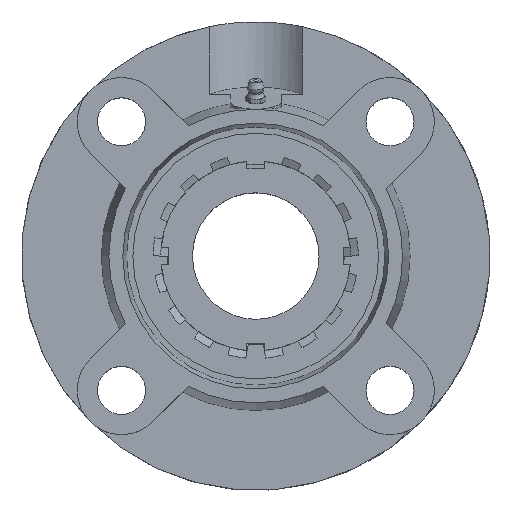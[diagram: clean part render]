
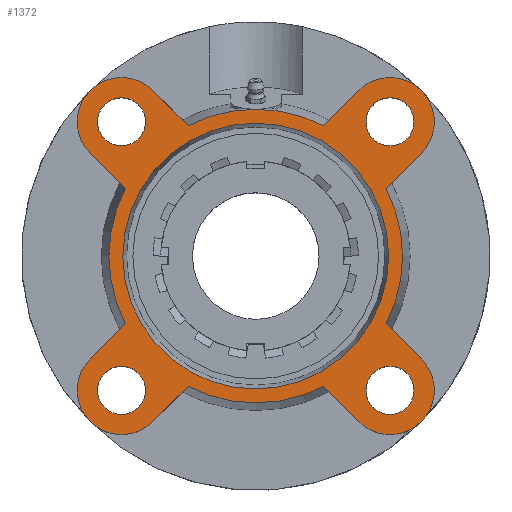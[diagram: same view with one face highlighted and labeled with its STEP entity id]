
A CAD part, top view. The second image highlights one B-rep face of the part: STEP entity #1372.
In plain terms, the highlighted planar face has unit normal (0, 0, 1).
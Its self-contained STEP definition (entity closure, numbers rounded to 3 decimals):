
#181=CARTESIAN_POINT('',(-43.533,-53.033,16.));
#182=VERTEX_POINT('',#181);
#183=CARTESIAN_POINT('',(-53.033,-53.033,16.));
#184=DIRECTION('',(0.0,0.0,-1.0));
#185=DIRECTION('',(1.0,0.0,0.0));
#186=AXIS2_PLACEMENT_3D('',#183,#184,#185);
#187=CIRCLE('',#186,9.5);
#188=EDGE_CURVE('',#182,#182,#187,.T.);
#209=CARTESIAN_POINT('',(-43.533,53.033,16.));
#210=VERTEX_POINT('',#209);
#211=CARTESIAN_POINT('',(-53.033,53.033,16.));
#212=DIRECTION('',(0.0,0.0,-1.0));
#213=DIRECTION('',(1.0,0.0,0.0));
#214=AXIS2_PLACEMENT_3D('',#211,#212,#213);
#215=CIRCLE('',#214,9.5);
#216=EDGE_CURVE('',#210,#210,#215,.T.);
#237=CARTESIAN_POINT('',(62.533,53.033,16.));
#238=VERTEX_POINT('',#237);
#239=CARTESIAN_POINT('',(53.033,53.033,16.));
#240=DIRECTION('',(0.0,0.0,-1.0));
#241=DIRECTION('',(1.0,0.0,0.0));
#242=AXIS2_PLACEMENT_3D('',#239,#240,#241);
#243=CIRCLE('',#242,9.5);
#244=EDGE_CURVE('',#238,#238,#243,.T.);
#265=CARTESIAN_POINT('',(62.533,-53.033,16.));
#266=VERTEX_POINT('',#265);
#267=CARTESIAN_POINT('',(53.033,-53.033,16.));
#268=DIRECTION('',(0.0,0.0,-1.0));
#269=DIRECTION('',(1.0,0.0,0.0));
#270=AXIS2_PLACEMENT_3D('',#267,#268,#269);
#271=CIRCLE('',#270,9.5);
#272=EDGE_CURVE('',#266,#266,#271,.T.);
#373=CARTESIAN_POINT('',(0.0,52.5,16.));
#374=VERTEX_POINT('',#373);
#375=CARTESIAN_POINT('',(0.0,0.,16.));
#376=DIRECTION('',(0.0,0.0,-1.0));
#377=DIRECTION('',(0.0,1.0,0.0));
#378=AXIS2_PLACEMENT_3D('',#375,#376,#377);
#379=CIRCLE('',#378,52.5);
#380=EDGE_CURVE('',#374,#374,#379,.T.);
#670=CARTESIAN_POINT('',(0.,58.,16.));
#671=VERTEX_POINT('',#670);
#828=CARTESIAN_POINT('',(-26.726,51.475,16.));
#829=VERTEX_POINT('',#828);
#843=CARTESIAN_POINT('',(0.0,0.,16.));
#844=DIRECTION('',(0.0,0.0,1.0));
#845=DIRECTION('',(0.0,-1.0,0.0));
#846=AXIS2_PLACEMENT_3D('',#843,#844,#845);
#847=CIRCLE('',#846,58.);
#848=EDGE_CURVE('',#671,#829,#847,.T.);
#858=CARTESIAN_POINT('',(-26.726,-51.475,16.));
#859=VERTEX_POINT('',#858);
#875=CARTESIAN_POINT('',(-40.659,-65.407,16.));
#876=VERTEX_POINT('',#875);
#877=CARTESIAN_POINT('',(-26.726,-51.475,16.));
#878=DIRECTION('',(-0.707,-0.707,0.));
#879=VECTOR('',#878,19.703);
#880=LINE('',#877,#879);
#881=EDGE_CURVE('',#859,#876,#880,.T.);
#905=CARTESIAN_POINT('',(-51.475,26.726,16.));
#906=VERTEX_POINT('',#905);
#922=CARTESIAN_POINT('',(-65.407,40.659,16.));
#923=VERTEX_POINT('',#922);
#924=CARTESIAN_POINT('',(-51.475,26.726,16.));
#925=DIRECTION('',(-0.707,0.707,0.));
#926=VECTOR('',#925,19.703);
#927=LINE('',#924,#926);
#928=EDGE_CURVE('',#906,#923,#927,.T.);
#952=CARTESIAN_POINT('',(51.475,-26.726,16.));
#953=VERTEX_POINT('',#952);
#969=CARTESIAN_POINT('',(65.407,-40.659,16.));
#970=VERTEX_POINT('',#969);
#971=CARTESIAN_POINT('',(51.475,-26.726,16.0));
#972=DIRECTION('',(0.707,-0.707,0.));
#973=VECTOR('',#972,19.703);
#974=LINE('',#971,#973);
#975=EDGE_CURVE('',#953,#970,#974,.T.);
#999=CARTESIAN_POINT('',(26.726,51.475,16.));
#1000=VERTEX_POINT('',#999);
#1014=CARTESIAN_POINT('',(40.659,65.407,16.));
#1015=VERTEX_POINT('',#1014);
#1016=CARTESIAN_POINT('',(26.726,51.475,16.));
#1017=DIRECTION('',(0.707,0.707,0.));
#1018=VECTOR('',#1017,19.703);
#1019=LINE('',#1016,#1018);
#1020=EDGE_CURVE('',#1000,#1015,#1019,.T.);
#1039=CARTESIAN_POINT('',(51.475,26.726,16.));
#1040=VERTEX_POINT('',#1039);
#1062=CARTESIAN_POINT('',(65.407,40.659,16.));
#1063=VERTEX_POINT('',#1062);
#1070=CARTESIAN_POINT('',(65.407,40.659,16.));
#1071=DIRECTION('',(-0.707,-0.707,0.));
#1072=VECTOR('',#1071,19.703);
#1073=LINE('',#1070,#1072);
#1074=EDGE_CURVE('',#1063,#1040,#1073,.T.);
#1084=CARTESIAN_POINT('',(-65.407,-40.659,16.));
#1085=VERTEX_POINT('',#1084);
#1086=CARTESIAN_POINT('',(-53.033,-53.033,16.));
#1087=DIRECTION('',(0.0,0.0,-1.0));
#1088=DIRECTION('',(-0.707,0.707,0.0));
#1089=AXIS2_PLACEMENT_3D('',#1086,#1087,#1088);
#1090=CIRCLE('',#1089,17.5);
#1091=EDGE_CURVE('',#876,#1085,#1090,.T.);
#1126=CARTESIAN_POINT('',(-51.475,-26.726,16.0));
#1127=VERTEX_POINT('',#1126);
#1148=CARTESIAN_POINT('',(-65.407,-40.659,16.));
#1149=DIRECTION('',(0.707,0.707,0.));
#1150=VECTOR('',#1149,19.703);
#1151=LINE('',#1148,#1150);
#1152=EDGE_CURVE('',#1085,#1127,#1151,.T.);
#1162=CARTESIAN_POINT('',(-40.659,65.407,16.));
#1163=VERTEX_POINT('',#1162);
#1164=CARTESIAN_POINT('',(-53.033,53.033,16.));
#1165=DIRECTION('',(0.0,0.0,-1.0));
#1166=DIRECTION('',(0.707,0.707,0.0));
#1167=AXIS2_PLACEMENT_3D('',#1164,#1165,#1166);
#1168=CIRCLE('',#1167,17.5);
#1169=EDGE_CURVE('',#923,#1163,#1168,.T.);
#1197=CARTESIAN_POINT('',(-40.659,65.407,16.));
#1198=DIRECTION('',(0.707,-0.707,0.));
#1199=VECTOR('',#1198,19.703);
#1200=LINE('',#1197,#1199);
#1201=EDGE_CURVE('',#1163,#829,#1200,.T.);
#1211=CARTESIAN_POINT('',(40.659,-65.407,16.));
#1212=VERTEX_POINT('',#1211);
#1213=CARTESIAN_POINT('',(53.033,-53.033,16.));
#1214=DIRECTION('',(0.0,0.0,-1.0));
#1215=DIRECTION('',(-0.707,-0.707,0.0));
#1216=AXIS2_PLACEMENT_3D('',#1213,#1214,#1215);
#1217=CIRCLE('',#1216,17.5);
#1218=EDGE_CURVE('',#970,#1212,#1217,.T.);
#1253=CARTESIAN_POINT('',(26.726,-51.475,16.));
#1254=VERTEX_POINT('',#1253);
#1275=CARTESIAN_POINT('',(40.659,-65.407,16.));
#1276=DIRECTION('',(-0.707,0.707,0.));
#1277=VECTOR('',#1276,19.703);
#1278=LINE('',#1275,#1277);
#1279=EDGE_CURVE('',#1212,#1254,#1278,.T.);
#1289=CARTESIAN_POINT('',(53.033,53.033,16.));
#1290=DIRECTION('',(0.0,0.0,-1.0));
#1291=DIRECTION('',(0.707,-0.707,0.0));
#1292=AXIS2_PLACEMENT_3D('',#1289,#1290,#1291);
#1293=CIRCLE('',#1292,17.5);
#1294=EDGE_CURVE('',#1015,#1063,#1293,.T.);
#1309=CARTESIAN_POINT('',(0.0,-29.,16.0));
#1310=DIRECTION('',(0.0,0.0,1.0));
#1311=DIRECTION('',(1.0,0.0,0.0));
#1312=AXIS2_PLACEMENT_3D('',#1309,#1310,#1311);
#1313=PLANE('',#1312);
#1314=CARTESIAN_POINT('',(0.0,0.,16.));
#1315=DIRECTION('',(0.0,0.0,1.0));
#1316=DIRECTION('',(0.0,-1.0,0.0));
#1317=AXIS2_PLACEMENT_3D('',#1314,#1315,#1316);
#1318=CIRCLE('',#1317,58.);
#1319=EDGE_CURVE('',#859,#1254,#1318,.T.);
#1320=ORIENTED_EDGE('',*,*,#1319,.T.);
#1321=ORIENTED_EDGE('',*,*,#1279,.F.);
#1322=ORIENTED_EDGE('',*,*,#1218,.F.);
#1323=ORIENTED_EDGE('',*,*,#975,.F.);
#1324=CARTESIAN_POINT('',(0.0,0.,16.));
#1325=DIRECTION('',(0.0,0.0,1.0));
#1326=DIRECTION('',(0.0,-1.0,0.0));
#1327=AXIS2_PLACEMENT_3D('',#1324,#1325,#1326);
#1328=CIRCLE('',#1327,58.);
#1329=EDGE_CURVE('',#953,#1040,#1328,.T.);
#1330=ORIENTED_EDGE('',*,*,#1329,.T.);
#1331=ORIENTED_EDGE('',*,*,#1074,.F.);
#1332=ORIENTED_EDGE('',*,*,#1294,.F.);
#1333=ORIENTED_EDGE('',*,*,#1020,.F.);
#1334=CARTESIAN_POINT('',(0.0,0.,16.));
#1335=DIRECTION('',(0.0,0.0,1.0));
#1336=DIRECTION('',(0.0,-1.0,0.0));
#1337=AXIS2_PLACEMENT_3D('',#1334,#1335,#1336);
#1338=CIRCLE('',#1337,58.);
#1339=EDGE_CURVE('',#1000,#671,#1338,.T.);
#1340=ORIENTED_EDGE('',*,*,#1339,.T.);
#1341=ORIENTED_EDGE('',*,*,#848,.T.);
#1342=ORIENTED_EDGE('',*,*,#1201,.F.);
#1343=ORIENTED_EDGE('',*,*,#1169,.F.);
#1344=ORIENTED_EDGE('',*,*,#928,.F.);
#1345=CARTESIAN_POINT('',(0.0,0.,16.));
#1346=DIRECTION('',(0.0,0.0,1.0));
#1347=DIRECTION('',(0.0,-1.0,0.0));
#1348=AXIS2_PLACEMENT_3D('',#1345,#1346,#1347);
#1349=CIRCLE('',#1348,58.);
#1350=EDGE_CURVE('',#906,#1127,#1349,.T.);
#1351=ORIENTED_EDGE('',*,*,#1350,.T.);
#1352=ORIENTED_EDGE('',*,*,#1152,.F.);
#1353=ORIENTED_EDGE('',*,*,#1091,.F.);
#1354=ORIENTED_EDGE('',*,*,#881,.F.);
#1355=EDGE_LOOP('',(#1320,#1321,#1322,#1323,#1330,#1331,#1332,#1333,#1340,#1341,#1342,#1343,#1344,#1351,#1352,#1353,#1354));
#1356=FACE_OUTER_BOUND('',#1355,.T.);
#1357=ORIENTED_EDGE('',*,*,#188,.T.);
#1358=EDGE_LOOP('',(#1357));
#1359=FACE_BOUND('',#1358,.T.);
#1360=ORIENTED_EDGE('',*,*,#216,.T.);
#1361=EDGE_LOOP('',(#1360));
#1362=FACE_BOUND('',#1361,.T.);
#1363=ORIENTED_EDGE('',*,*,#244,.T.);
#1364=EDGE_LOOP('',(#1363));
#1365=FACE_BOUND('',#1364,.T.);
#1366=ORIENTED_EDGE('',*,*,#272,.T.);
#1367=EDGE_LOOP('',(#1366));
#1368=FACE_BOUND('',#1367,.T.);
#1369=ORIENTED_EDGE('',*,*,#380,.T.);
#1370=EDGE_LOOP('',(#1369));
#1371=FACE_BOUND('',#1370,.T.);
#1372=ADVANCED_FACE('',(#1356,#1359,#1362,#1365,#1368,#1371),#1313,.T.);
